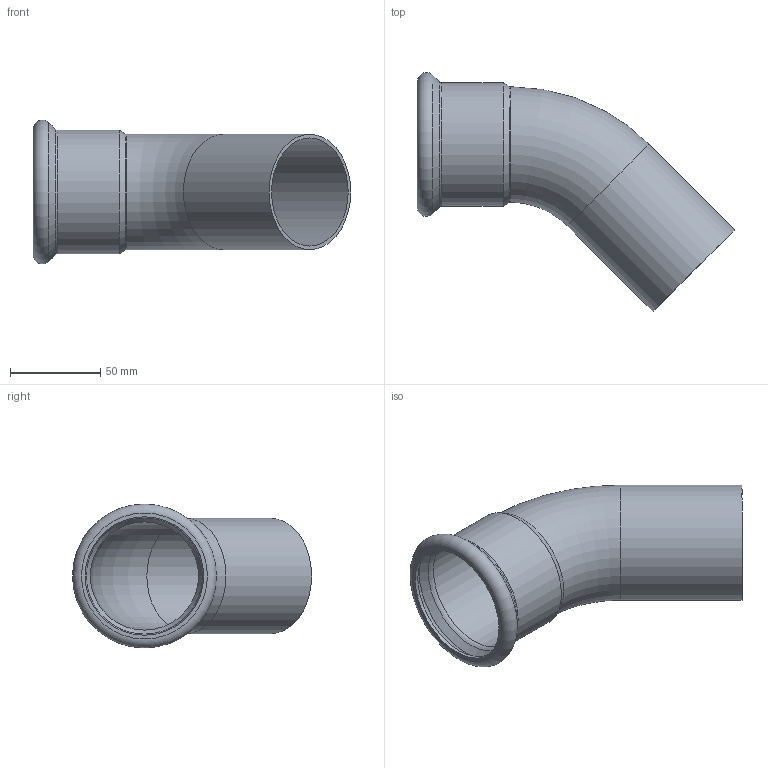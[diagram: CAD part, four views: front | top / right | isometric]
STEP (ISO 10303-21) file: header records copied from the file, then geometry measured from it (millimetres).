
FILE_DESCRIPTION((''),'2;1');
FILE_NAME('G:\Nirosan-Schmiedefeld\Technics\CAD\Bauteile VA\064\064 3d_step\6904064(0).stp','2009-05-08T09:12:27',('herberg'),(''),'Autodesk Inventor 2009','Autodesk Inventor 2009','');
FILE_SCHEMA(('AUTOMOTIVE_DESIGN { 1 0 10303 214 1 1 1 1 }'));
Length unit declared in the file: millimetre
Products named in the file (1): 6904064(0)
Bounding box: 175.92 x 132.53 x 79.8 mm (x, y, z)
Volume: 74319.5 mm3; surface area: 75129.4 mm2
Topology: 1 solids, 1 shells, 20 faces, 42 edges, 25 vertices
Faces by surface type: cylinder 7, torus 4, cone 4, plane 3, bspline 2
Full cylindrical faces by diameter (mm): 60 x2, 64 x2, 64.4 x1, 65.7 x1, 68.4 x1
Entity records: 514 total; most frequent: CARTESIAN_POINT 149, DIRECTION 78, ORIENTED_EDGE 40, EDGE_LOOP 40, AXIS2_PLACEMENT_3D 39, VERTEX_POINT 20, CIRCLE 20, EDGE_CURVE 20
